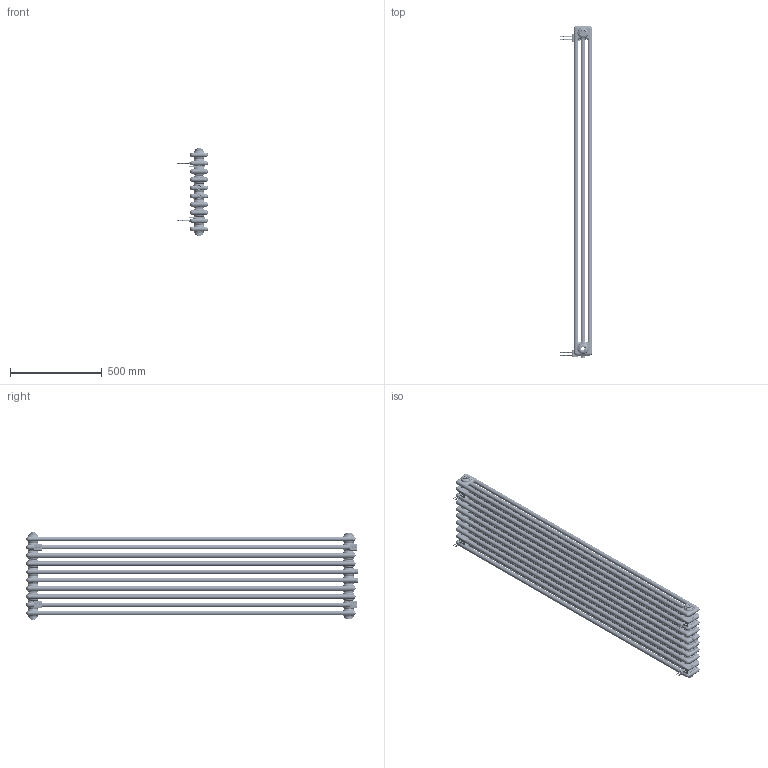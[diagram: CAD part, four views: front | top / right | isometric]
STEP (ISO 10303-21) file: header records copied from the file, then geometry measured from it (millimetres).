
FILE_DESCRIPTION(/* description */ (''),/* implementation_level */ '2;1');
FILE_NAME(/* name */ 'CL03 1800x470',/* time_stamp */ '2023-09-09T16:44:21+08:00',/* author */ (''),/* organization */ (''),/* preprocessor_version */ 'ST-DEVELOPER v9',/* originating_system */ 'UGS - NX 4.0',/* authorisation */ '');
FILE_SCHEMA (('CONFIG_CONTROL_DESIGN'));
Length unit declared in the file: millimetre
Products named in the file (1): AdmiF21Fp07w
Bounding box: 176.1 x 1813 x 484 mm (x, y, z)
Volume: 5019739 mm3; surface area: 8246597.6 mm2
Topology: 41 solids, 41 shells, 4159 faces, 10025 edges, 5949 vertices
Faces by surface type: bspline 1219, cylinder 1153, plane 812, torus 580, cone 395
Full cylindrical faces by diameter (mm): 25 x2
Entity records: 251048 total; most frequent: CARTESIAN_POINT 164242, ORIENTED_EDGE 20018, DIRECTION 15637, EDGE_CURVE 10009, AXIS2_PLACEMENT_3D 6543, VERTEX_POINT 5951, EDGE_LOOP 4364, ADVANCED_FACE 4159
